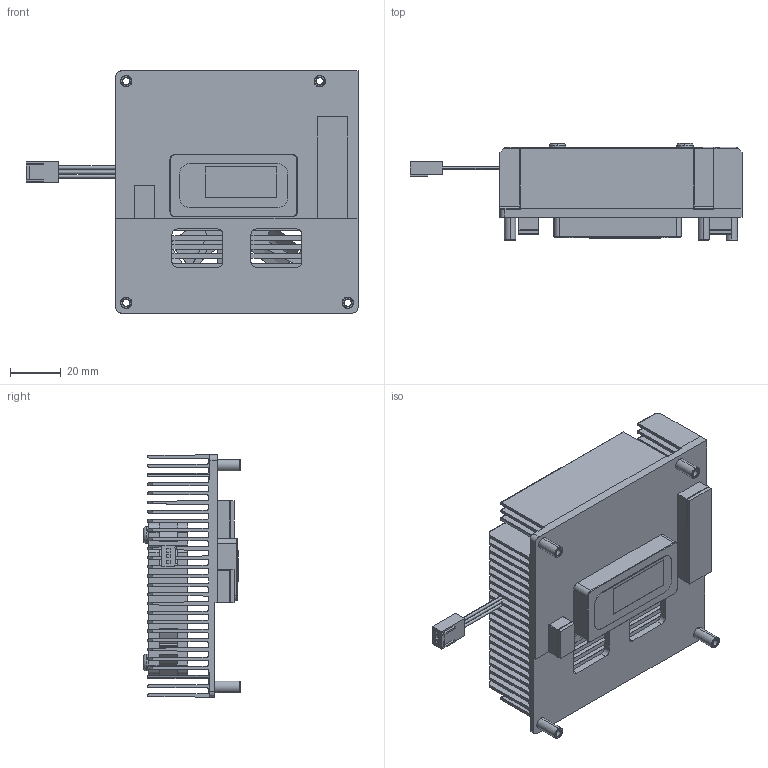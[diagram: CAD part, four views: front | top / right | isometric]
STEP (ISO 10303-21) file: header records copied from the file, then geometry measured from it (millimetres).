
FILE_DESCRIPTION((''),'2;1');
FILE_NAME('HS-93U0-C1_ASM','2025-11-27T',('nina'),(''),'CREO PARAMETRIC BY PTC INC, 2018070','CREO PARAMETRIC BY PTC INC, 2018070','');
FILE_SCHEMA(('AUTOMOTIVE_DESIGN { 1 0 10303 214 1 1 1 1 }'));
Length unit declared in the file: millimetre
Products named in the file (6): HS-93U0-W1; TP_12X28X02T; PAD_1-5T-DOM-1; PAD_1-5T-DOM-2; FAN_SUNON-6015; HS-93U0-C1_ASM
Assembly tree (5 placements, depth 2):
  HS-93U0-C1_ASM
    HS-93U0-W1
    TP_12X28X02T
    PAD_1-5T-DOM-1
    PAD_1-5T-DOM-2
    FAN_SUNON-6015
Bounding box: 130.27 x 38 x 95 mm (x, y, z)
Volume: 112365 mm3; surface area: 126383.2 mm2
Topology: 5 solids, 9 shells, 794 faces, 2190 edges, 1415 vertices
Faces by surface type: plane 400, cylinder 246, bspline 48, torus 44, cone 40, extrusion 16
Entity records: 38650 total; most frequent: CARTESIAN_POINT 13458, ORIENTED_EDGE 4372, DIRECTION 4041, EDGE_CURVE 2186, VERTEX_POINT 1415, PRESENTATION_STYLE_ASSIGNMENT 1387, STYLED_ITEM 1387, CURVE_STYLE 1378
